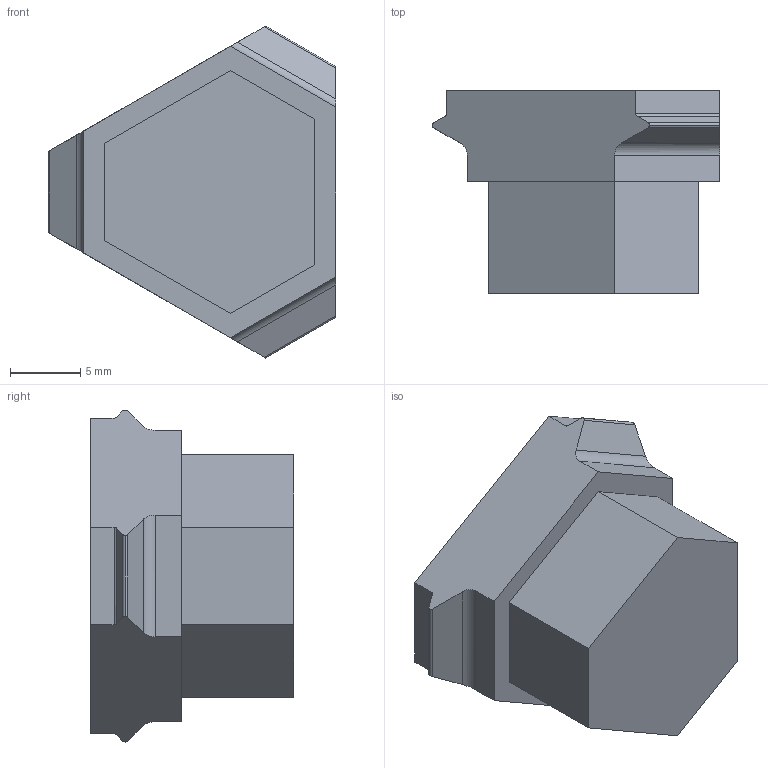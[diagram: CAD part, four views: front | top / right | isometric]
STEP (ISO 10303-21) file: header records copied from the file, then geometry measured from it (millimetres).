
FILE_DESCRIPTION (( 'STEP AP214' ), '1' );
FILE_NAME ('51111-02.STEP', '2021-01-21T07:19:45', ( '' ), ( '' ), 'SwSTEP 2.0', 'SolidWorks 2019', '' );
FILE_SCHEMA (( 'AUTOMOTIVE_DESIGN' ));
Length unit declared in the file: millimetre
Products named in the file (1): 51111-02
Bounding box: 20.5 x 14.5 x 23.67 mm (x, y, z)
Volume: 3489.8 mm3; surface area: 1472.2 mm2
Topology: 1 solids, 1 shells, 36 faces, 99 edges, 66 vertices
Faces by surface type: plane 24, cylinder 12
Entity records: 1157 total; most frequent: CARTESIAN_POINT 274, ORIENTED_EDGE 198, DIRECTION 149, EDGE_CURVE 99, VECTOR 75, LINE 75, VERTEX_POINT 66, AXIS2_PLACEMENT_3D 37
